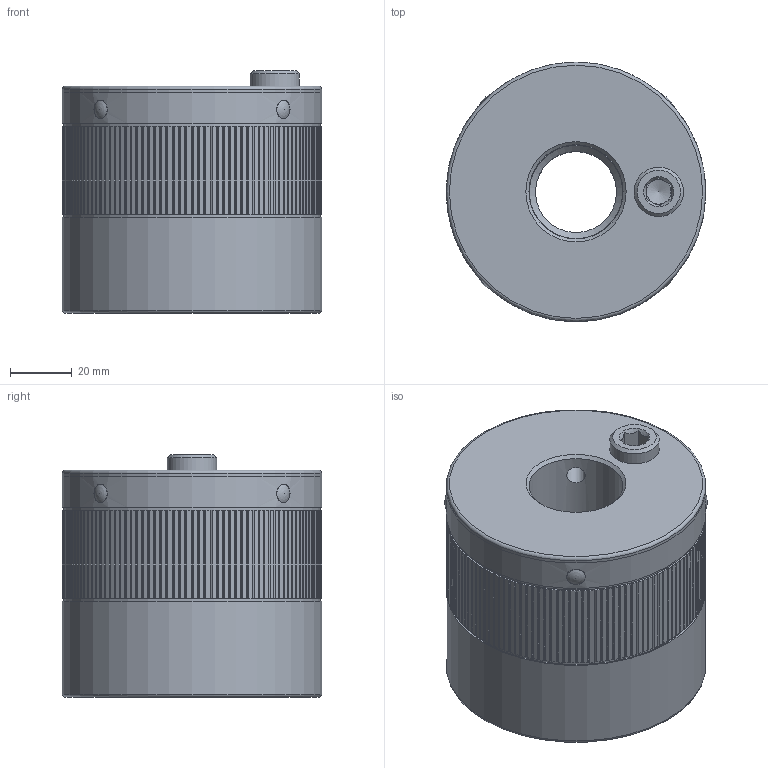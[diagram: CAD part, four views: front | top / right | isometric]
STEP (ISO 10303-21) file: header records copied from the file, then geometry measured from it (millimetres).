
FILE_DESCRIPTION(/* description */ ('Unknown','CAx-IF Rec.Pracs.---Representation and Presentation of Product Manufacturing Information (PMI)---4.0---2014-10-13','CAx-IF Rec.Pracs.---3D Tessellated Geometry---0.4---2014-09-14','2;1'),/* implementation_level */ '2;1');
FILE_NAME(/* name */ 'MDA 120_SW8_M30',/* time_stamp */ '2023-09-15T11:25:03+02:00',/* author */ ('Unknown'),/* organization */ ('Unknown'),/* preprocessor_version */ 'ST-DEVELOPER v18.102',/* originating_system */ 'Solid Edge',/* authorisation */ 'Unknown');
FILE_SCHEMA (('AP242_MANAGED_MODEL_BASED_3D_ENGINEERING_MIM_LF { 1 0 10303 442 1 1 4 }'));
Length unit declared in the file: millimetre
Products named in the file (7): 05933092; 43733046; 42231915; 46431916; KT100003; KT101191; 46331550
Assembly tree (9 placements, depth 2):
  05933092
    43733046
    42231915
    46431916
    KT100003  x4
    KT101191
    46331550
Bounding box: 84 x 84 x 78.5 mm (x, y, z)
Volume: 346541.3 mm3; surface area: 106617.8 mm2
Topology: 9 solids, 9 shells, 506 faces, 1424 edges, 939 vertices
Faces by surface type: plane 290, cylinder 167, cone 25, torus 10, sphere 8, bspline 6
Full cylindrical faces by diameter (mm): 1.6 x1, 6 x12, 8 x1, 16 x2, 16.5 x1, 26.211 x1, 30.5 x1, 48 x3, 66.2 x1, 71 x1, 74 x1, 76.5 x1, 76.9 x1, 77 x3, 83 x2, 84 x3
Entity records: 16338 total; most frequent: CARTESIAN_POINT 3316, DIRECTION 2606, ORIENTED_EDGE 2596, EDGE_CURVE 1298, LINE 918, VECTOR 918, VERTEX_POINT 900, AXIS2_PLACEMENT_3D 844
